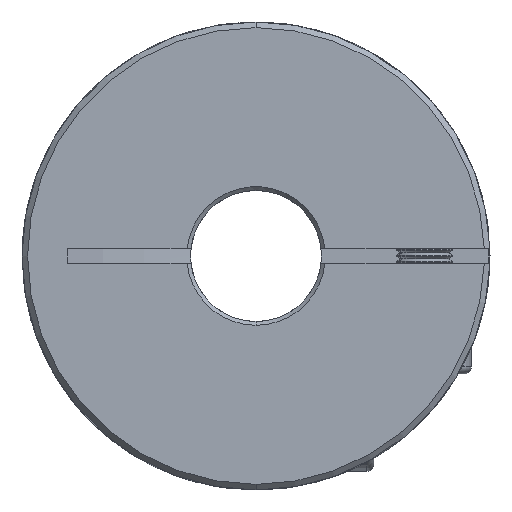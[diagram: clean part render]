
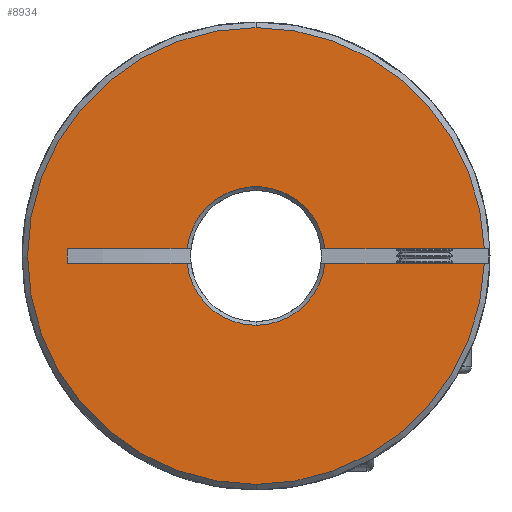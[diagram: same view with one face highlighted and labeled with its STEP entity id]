
A CAD part, front view. The second image highlights one B-rep face of the part: STEP entity #8934.
In plain terms, the highlighted planar face has unit normal (0, -1, 0).
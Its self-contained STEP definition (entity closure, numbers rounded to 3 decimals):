
#26 = ORIENTED_EDGE ( 'NONE', *, *, #11064, .T. ) ;
#43 = DIRECTION ( 'NONE',  ( 0., 0., 1. ) ) ;
#56 = EDGE_CURVE ( 'NONE', #12055, #284, #4107, .T. ) ;
#216 = AXIS2_PLACEMENT_3D ( 'NONE', #6444, #15847, #13222 ) ;
#284 = VERTEX_POINT ( 'NONE', #2507 ) ;
#345 = LINE ( 'NONE', #9515, #14475 ) ;
#471 = VERTEX_POINT ( 'NONE', #10605 ) ;
#691 = DIRECTION ( 'NONE',  ( 0., -1., 0. ) ) ;
#784 = EDGE_CURVE ( 'NONE', #5929, #11466, #1749, .T. ) ;
#805 = ORIENTED_EDGE ( 'NONE', *, *, #7733, .T. ) ;
#1320 = ORIENTED_EDGE ( 'NONE', *, *, #56, .F. ) ;
#1466 = CIRCLE ( 'NONE', #2139, 7.4 ) ;
#1498 = EDGE_CURVE ( 'NONE', #14927, #5929, #3830, .T. ) ;
#1636 = CARTESIAN_POINT ( 'NONE',  ( -50., 0., -0.75 ) ) ;
#1749 = CIRCLE ( 'NONE', #15170, 24.4 ) ;
#1855 = VERTEX_POINT ( 'NONE', #15034 ) ;
#1905 = EDGE_LOOP ( 'NONE', ( #1320, #26, #5601, #2493, #4373, #6765, #805, #2379, #17325, #13732, #9229 ) ) ;
#1950 = VECTOR ( 'NONE', #10075, 1000. ) ;
#2070 = AXIS2_PLACEMENT_3D ( 'NONE', #2593, #3955, #5389 ) ;
#2139 = AXIS2_PLACEMENT_3D ( 'NONE', #16121, #5356, #43 ) ;
#2169 = CARTESIAN_POINT ( 'NONE',  ( -50., 0., 0.75 ) ) ;
#2379 = ORIENTED_EDGE ( 'NONE', *, *, #1498, .T. ) ;
#2493 = ORIENTED_EDGE ( 'NONE', *, *, #13322, .F. ) ;
#2507 = CARTESIAN_POINT ( 'NONE',  ( 24.388, 0., -0.75 ) ) ;
#2593 = CARTESIAN_POINT ( 'NONE',  ( 0., 0., 0. ) ) ;
#2605 = VECTOR ( 'NONE', #3519, 1000. ) ;
#2828 = EDGE_CURVE ( 'NONE', #13314, #16980, #12345, .T. ) ;
#3272 = CARTESIAN_POINT ( 'NONE',  ( 0., 0., 24.4 ) ) ;
#3499 = EDGE_CURVE ( 'NONE', #12443, #10822, #6225, .T. ) ;
#3519 = DIRECTION ( 'NONE',  ( 1., 0., 0. ) ) ;
#3830 = LINE ( 'NONE', #12019, #13548 ) ;
#3955 = DIRECTION ( 'NONE',  ( 0., -1., 0. ) ) ;
#4107 = LINE ( 'NONE', #1636, #10833 ) ;
#4373 = ORIENTED_EDGE ( 'NONE', *, *, #15347, .T. ) ;
#4984 = DIRECTION ( 'NONE',  ( 0., 1., 0. ) ) ;
#5356 = DIRECTION ( 'NONE',  ( 0., 1., 0. ) ) ;
#5389 = DIRECTION ( 'NONE',  ( 0., 0., 1. ) ) ;
#5552 = DIRECTION ( 'NONE',  ( 0., 1., 0. ) ) ;
#5561 = LINE ( 'NONE', #6101, #1950 ) ;
#5601 = ORIENTED_EDGE ( 'NONE', *, *, #2828, .T. ) ;
#5872 = FACE_OUTER_BOUND ( 'NONE', #1905, .T. ) ;
#5929 = VERTEX_POINT ( 'NONE', #7749 ) ;
#6101 = CARTESIAN_POINT ( 'NONE',  ( -20.149, 0., -0.75 ) ) ;
#6225 = LINE ( 'NONE', #2169, #2605 ) ;
#6276 = AXIS2_PLACEMENT_3D ( 'NONE', #11105, #9511, #11039 ) ;
#6399 = EDGE_CURVE ( 'NONE', #11466, #1855, #6758, .T. ) ;
#6444 = CARTESIAN_POINT ( 'NONE',  ( 0., 0., 0. ) ) ;
#6758 = CIRCLE ( 'NONE', #216, 24.4 ) ;
#6765 = ORIENTED_EDGE ( 'NONE', *, *, #3499, .T. ) ;
#6842 = DIRECTION ( 'NONE',  ( 1., 0., 0. ) ) ;
#7533 = DIRECTION ( 'NONE',  ( 0., 0., 1. ) ) ;
#7538 = CARTESIAN_POINT ( 'NONE',  ( -7.362, 0., -0.75 ) ) ;
#7694 = DIRECTION ( 'NONE',  ( 0., 0., 1. ) ) ;
#7733 = EDGE_CURVE ( 'NONE', #10822, #14927, #1466, .T. ) ;
#7749 = CARTESIAN_POINT ( 'NONE',  ( 24.388, 0., 0.75 ) ) ;
#7895 = DIRECTION ( 'NONE',  ( 1., 0., 0. ) ) ;
#8286 = CARTESIAN_POINT ( 'NONE',  ( 0., 0., -7.4 ) ) ;
#8632 = CIRCLE ( 'NONE', #15198, 7.4 ) ;
#8927 = CARTESIAN_POINT ( 'NONE',  ( 7.362, 0., -0.75 ) ) ;
#8934 = ADVANCED_FACE ( 'NONE', ( #5872 ), #12433, .F. ) ;
#9229 = ORIENTED_EDGE ( 'NONE', *, *, #9859, .T. ) ;
#9447 = CARTESIAN_POINT ( 'NONE',  ( 7.362, 0., 0.75 ) ) ;
#9492 = CIRCLE ( 'NONE', #2070, 24.4 ) ;
#9511 = DIRECTION ( 'NONE',  ( 0., 1., 0. ) ) ;
#9515 = CARTESIAN_POINT ( 'NONE',  ( -50., 0., -0.75 ) ) ;
#9859 = EDGE_CURVE ( 'NONE', #1855, #284, #9492, .T. ) ;
#10075 = DIRECTION ( 'NONE',  ( 0., 0., 1. ) ) ;
#10605 = CARTESIAN_POINT ( 'NONE',  ( -20.149, 0., -0.75 ) ) ;
#10822 = VERTEX_POINT ( 'NONE', #14831 ) ;
#10833 = VECTOR ( 'NONE', #6842, 1000. ) ;
#10945 = CARTESIAN_POINT ( 'NONE',  ( -50., 0., 32.858 ) ) ;
#11039 = DIRECTION ( 'NONE',  ( 0., 0., 1. ) ) ;
#11064 = EDGE_CURVE ( 'NONE', #12055, #13314, #8632, .T. ) ;
#11105 = CARTESIAN_POINT ( 'NONE',  ( 0., 0., 0. ) ) ;
#11466 = VERTEX_POINT ( 'NONE', #3272 ) ;
#11650 = CARTESIAN_POINT ( 'NONE',  ( 0., 0., 0. ) ) ;
#12019 = CARTESIAN_POINT ( 'NONE',  ( -50., 0., 0.75 ) ) ;
#12055 = VERTEX_POINT ( 'NONE', #8927 ) ;
#12345 = CIRCLE ( 'NONE', #6276, 7.4 ) ;
#12433 = PLANE ( 'NONE',  #12561 ) ;
#12443 = VERTEX_POINT ( 'NONE', #16614 ) ;
#12561 = AXIS2_PLACEMENT_3D ( 'NONE', #10945, #5552, #16306 ) ;
#12777 = CARTESIAN_POINT ( 'NONE',  ( 0., 0., 0. ) ) ;
#13222 = DIRECTION ( 'NONE',  ( 0., 0., 1. ) ) ;
#13314 = VERTEX_POINT ( 'NONE', #8286 ) ;
#13322 = EDGE_CURVE ( 'NONE', #471, #16980, #345, .T. ) ;
#13548 = VECTOR ( 'NONE', #7895, 1000. ) ;
#13732 = ORIENTED_EDGE ( 'NONE', *, *, #6399, .T. ) ;
#14475 = VECTOR ( 'NONE', #16520, 1000. ) ;
#14831 = CARTESIAN_POINT ( 'NONE',  ( -7.362, 0., 0.75 ) ) ;
#14927 = VERTEX_POINT ( 'NONE', #9447 ) ;
#15034 = CARTESIAN_POINT ( 'NONE',  ( 0., 0., -24.4 ) ) ;
#15170 = AXIS2_PLACEMENT_3D ( 'NONE', #12777, #691, #7533 ) ;
#15198 = AXIS2_PLACEMENT_3D ( 'NONE', #11650, #4984, #7694 ) ;
#15347 = EDGE_CURVE ( 'NONE', #471, #12443, #5561, .T. ) ;
#15847 = DIRECTION ( 'NONE',  ( 0., -1., 0. ) ) ;
#16121 = CARTESIAN_POINT ( 'NONE',  ( 0., 0., 0. ) ) ;
#16306 = DIRECTION ( 'NONE',  ( 0., 0., 1. ) ) ;
#16520 = DIRECTION ( 'NONE',  ( 1., 0., 0. ) ) ;
#16614 = CARTESIAN_POINT ( 'NONE',  ( -20.149, 0., 0.75 ) ) ;
#16980 = VERTEX_POINT ( 'NONE', #7538 ) ;
#17325 = ORIENTED_EDGE ( 'NONE', *, *, #784, .T. ) ;
